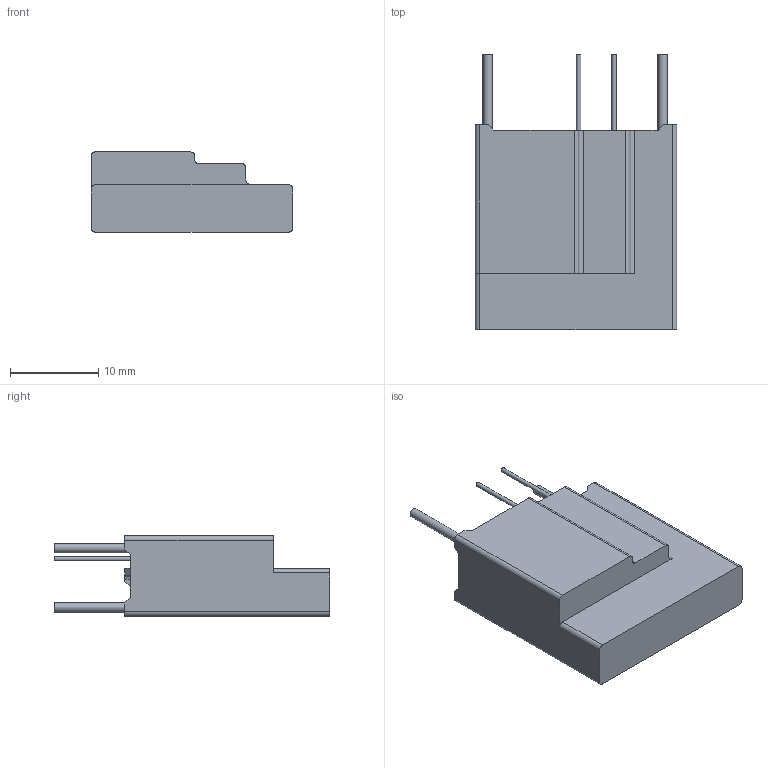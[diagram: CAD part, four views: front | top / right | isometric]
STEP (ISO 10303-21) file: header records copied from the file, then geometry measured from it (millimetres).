
FILE_DESCRIPTION(/* description */ ('Unknown'),/* implementation_level */ '2;1');
FILE_NAME(/* name */ 'TFMOV20S270-IT-4-001',/* time_stamp */ '2024-06-24T17:25:47+08:00',/* author */ ('Unknown'),/* organization */ ('Unknown'),/* preprocessor_version */ 'ST-DEVELOPER v16.7',/* originating_system */ 'Solid Edge',/* authorisation */ 'Unknown');
FILE_SCHEMA (('AUTOMOTIVE_DESIGN {1 0 10303 214 3 1 1}'));
Length unit declared in the file: millimetre
Products named in the file (1): TFMOV20S270-IT-4-001
Bounding box: 22.8 x 31.2 x 9.1 mm (x, y, z)
Volume: 1319 mm3; surface area: 3303 mm2
Topology: 1 solids, 2 shells, 103 faces, 284 edges, 189 vertices
Faces by surface type: plane 79, cylinder 24
Full cylindrical faces by diameter (mm): 0.5 x2, 1.05 x2
Entity records: 3258 total; most frequent: CARTESIAN_POINT 571, ORIENTED_EDGE 558, DIRECTION 536, EDGE_CURVE 279, LINE 230, VECTOR 230, VERTEX_POINT 188, AXIS2_PLACEMENT_3D 153
